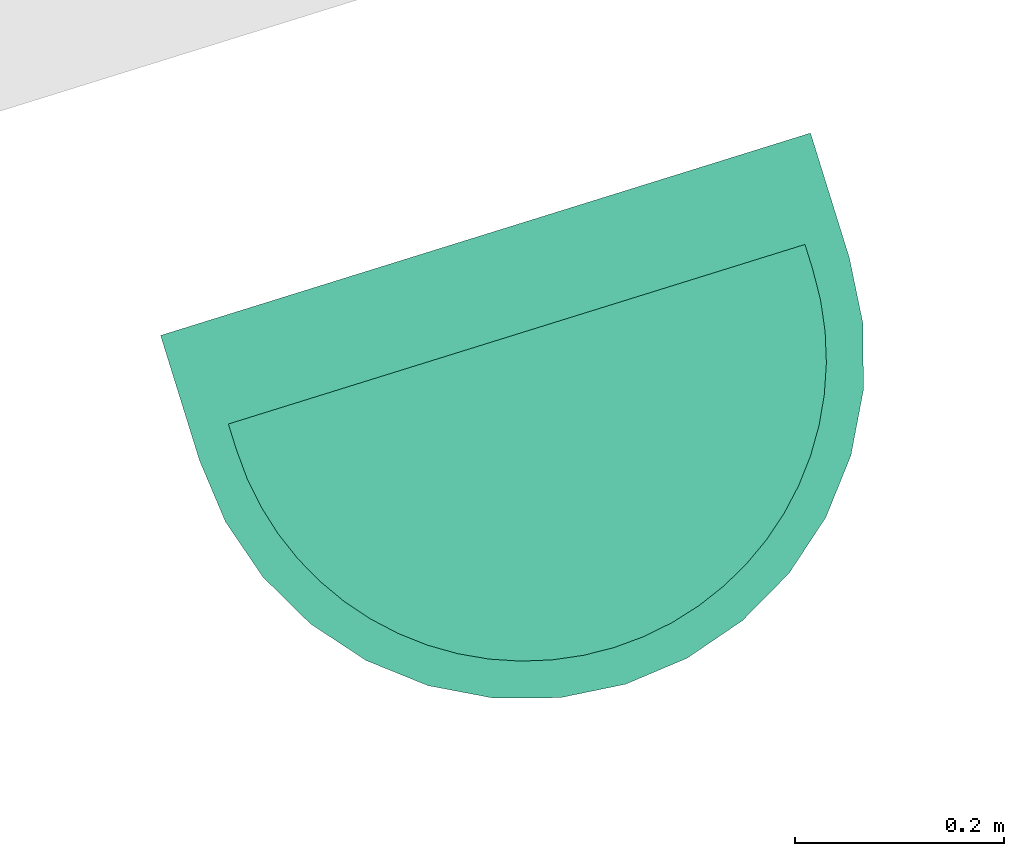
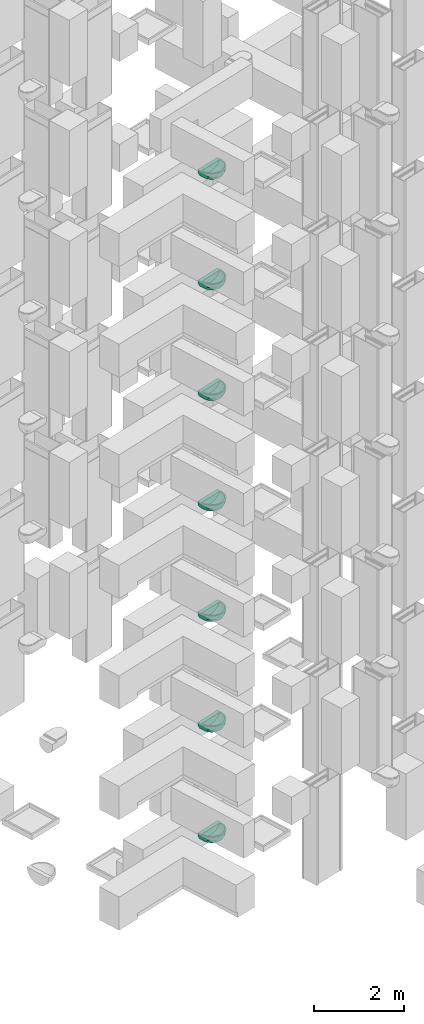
# Not in any storey, part 7 of 20: 7 sanitary terminals.
"""IFC4 model written with IfcOpenShell, lengths in metres."""

from ifc_helpers import new_model, entity, si_unit, converted_unit, direction, frame, origin, place, context, subcontext, project, polygons, source, transform, mapped, material, type_object, type_shapes, element, save


model = new_model("IFC4")

# Units and contexts
model_context = context("Model", 3, precision=1e-05, world=origin(), true_north=direction((6.12323399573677e-17, 1.0)))
body_context = subcontext(model_context, "Body", "Model", "MODEL_VIEW")
ifc_project = project(units=[si_unit("LENGTHUNIT", "METRE"), si_unit("AREAUNIT", "SQUARE_METRE"), si_unit("VOLUMEUNIT", "CUBIC_METRE"), converted_unit("PLANEANGLEUNIT", "DEGREE", entity("IfcPlaneAngleMeasure", 0.0174532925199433), si_unit("PLANEANGLEUNIT", "RADIAN"), dimensions=[0, 0, 0, 0, 0, 0, 0])], contexts=[model_context])

# Sanitary terminals
ifc_material = material(Name="<Unnamed>")
sanitary_terminal_type = type_object("IfcSanitaryTerminalType", Name="NLRS_74_PF_WB_wastafel_gen:wastafel", PredefinedType="SINK", material=ifc_material)
shared_shape = source(origin(), body_context, "Body", "Tessellation", [
    polygons([(0.346918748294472, 0.250000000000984, -6.7), (0.346918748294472, 0.124999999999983, -6.7), (0.342460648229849, 0.124999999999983, -6.75364597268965), (0.32922351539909, 0.124999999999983, -6.80577703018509), (0.307569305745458, 0.124999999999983, -6.85501212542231), (0.278092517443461, 0.124999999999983, -6.9), (0.278092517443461, 0.250000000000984, -6.9), (0.307575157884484, 0.250000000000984, -6.85500134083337), (0.329230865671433, 0.250000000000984, -6.8057556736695), (0.34246627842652, 0.250000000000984, -6.75361232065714), (-0.303081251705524, 0.250000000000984, -6.7), (-0.303081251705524, 0.124999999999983, -6.7), (0.021918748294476, 0.124999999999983, -6.7), (0.021918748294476, 0.225000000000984, -6.7), (-0.266395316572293, 0.225000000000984, -6.7), (-0.266395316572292, 0.250000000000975, -6.7), (-0.264816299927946, 0.280133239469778, -6.7), (-0.260095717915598, 0.309940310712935, -6.7), (-0.252285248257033, 0.339090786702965, -6.7), (-0.241470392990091, 0.367265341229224, -6.7), (-0.227769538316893, 0.394155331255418, -6.7), (-0.21133265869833, 0.419466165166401, -6.7), (-0.192339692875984, 0.442920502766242, -6.7), (-0.170998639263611, 0.464261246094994, -6.7), (-0.147543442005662, 0.483254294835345, -6.7), (-0.122231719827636, 0.499691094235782, -6.7), (-0.0953421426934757, 0.513391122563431, -6.7), (-0.0671705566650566, 0.524204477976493, -6.7), (-0.0380241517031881, 0.532013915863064, -6.7), (-0.00821701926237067, 0.536734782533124, -6.7), (0.021918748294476, 0.538314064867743, -6.7), (0.021918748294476, 0.575000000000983, -6.7), (-0.0414856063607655, 0.568755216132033, -6.7), (-0.102453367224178, 0.550260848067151, -6.7), (-0.158641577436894, 0.52022762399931, -6.7), (-0.207890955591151, 0.479809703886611, -6.7), (-0.248308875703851, 0.430560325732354, -6.7), (-0.278342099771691, 0.374372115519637, -6.7), (-0.296836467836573, 0.313404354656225, -6.7), (0.340673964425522, 0.313404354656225, -6.7), (0.32217959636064, 0.374372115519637, -6.7), (0.292146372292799, 0.430560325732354, -6.7), (0.2517284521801, 0.479809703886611, -6.7), (0.202479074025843, 0.52022762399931, -6.7), (0.146290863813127, 0.550260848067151, -6.7), (0.0853231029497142, 0.568755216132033, -6.7), (0.0520545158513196, 0.536734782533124, -6.7), (0.0818616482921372, 0.532013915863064, -6.7), (0.111008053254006, 0.524204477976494, -6.7), (0.139179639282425, 0.513391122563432, -6.7), (0.166069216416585, 0.499691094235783, -6.7), (0.191380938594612, 0.483254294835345, -6.7), (0.214836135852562, 0.464261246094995, -6.7), (0.236177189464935, 0.442920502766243, -6.7), (0.255170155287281, 0.419466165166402, -6.7), (0.271607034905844, 0.394155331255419, -6.7), (0.285307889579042, 0.367265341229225, -6.7), (0.296122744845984, 0.339090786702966, -6.7), (0.303933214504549, 0.309940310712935, -6.7), (0.308653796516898, 0.280133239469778, -6.7), (0.310232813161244, 0.250000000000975, -6.7), (0.310232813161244, 0.225000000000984, -6.7), (-0.298628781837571, 0.250000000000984, -6.75361232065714), (-0.285393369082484, 0.250000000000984, -6.8057556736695), (-0.263737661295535, 0.250000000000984, -6.85500134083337), (-0.234255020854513, 0.250000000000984, -6.9), (-0.234255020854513, 0.124999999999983, -6.9), (-0.26372299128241, 0.124999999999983, -6.85502837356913), (-0.285382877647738, 0.124999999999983, -6.80578615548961), (-0.298623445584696, 0.124999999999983, -6.75364421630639), (0.27659082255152, 0.277697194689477, -6.9), (0.272103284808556, 0.305069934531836, -6.9), (0.264682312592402, 0.331797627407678, -6.9), (0.254414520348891, 0.357567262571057, -6.9), (0.24141970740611, 0.38207698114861, -6.9), (0.225849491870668, 0.405039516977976, -6.9), (0.207885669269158, 0.426185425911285, -6.9), (0.18773840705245, 0.445266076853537, -6.9), (0.165644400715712, 0.46205644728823, -6.9), (0.141864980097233, 0.476357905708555, -6.9), (0.11668363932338, 0.488001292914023, -6.9), (0.0904016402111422, 0.496850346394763, -6.9), (0.0633306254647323, 0.502804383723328, -6.9), (0.0357845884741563, 0.505798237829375, -6.9), (0.00807674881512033, 0.50579952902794, -6.9), (-0.0194777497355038, 0.502806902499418, -6.9), (-0.0465597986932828, 0.496851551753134, -6.9), (-0.0728496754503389, 0.487999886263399, -6.9), (-0.0980340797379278, 0.476354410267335, -6.9), (-0.121813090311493, 0.462052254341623, -6.9), (-0.1439051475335, 0.445262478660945, -6.9), (-0.164050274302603, 0.426183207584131, -6.9), (-0.182012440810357, 0.40503893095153, -6.9), (-0.197581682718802, 0.382077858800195, -6.9), (-0.210576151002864, 0.357569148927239, -6.9), (-0.220844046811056, 0.331799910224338, -6.9), (-0.228265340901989, 0.305071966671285, -6.9), (-0.232753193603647, 0.277698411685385, -6.9), (-0.257045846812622, 0.372316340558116, -6.81332461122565), (0.300884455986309, 0.372313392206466, -6.81332505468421), (-0.0097834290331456, 0.571877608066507, -6.7), (-0.205655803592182, 0.453737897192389, -6.81102113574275), (0.249493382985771, 0.453737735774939, -6.81102126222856), (0.0536209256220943, 0.571877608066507, -6.7), (0.021933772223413, 0.556913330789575, -6.80690747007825), (-0.0719694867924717, 0.559508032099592, -6.7), (0.11580698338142, 0.559508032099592, -6.7), (-0.0425022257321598, 0.546258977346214, -6.81707073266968), (-0.165040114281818, 0.491191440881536, -6.81179477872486), (0.20887408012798, 0.49119811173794, -6.81178629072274), (0.0863501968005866, 0.546256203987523, -6.8170719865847), (-0.23446246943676, 0.3802654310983, -6.85140868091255), (0.278301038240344, 0.380263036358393, -6.85140892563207), (-0.120243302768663, 0.518687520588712, -6.81498681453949), (0.164074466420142, 0.518691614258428, -6.81498507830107), (-0.233336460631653, 0.433005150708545, -6.78353976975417), (0.277175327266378, 0.433003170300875, -6.78353992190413), (-0.290060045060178, 0.315925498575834, -6.76283359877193), (0.333897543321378, 0.315925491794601, -6.76283359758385), (-0.275008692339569, 0.312028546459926, -6.81666856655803), (-0.254394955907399, 0.314447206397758, -6.85850014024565), (-0.272362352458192, 0.371908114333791, -6.76451391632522), (0.31884634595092, 0.312026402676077, -6.81666930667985), (0.298232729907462, 0.314444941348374, -6.85850057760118), (0.316201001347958, 0.371905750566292, -6.76451312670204), (-0.0755829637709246, 0.549402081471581, -6.78047862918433), (-0.0690330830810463, 0.524635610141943, -6.84808121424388), (0.119420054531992, 0.549406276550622, -6.7804635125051), (0.112885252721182, 0.524636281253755, -6.84807095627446), (-0.228099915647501, 0.455185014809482, -6.7), (0.27193741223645, 0.455185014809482, -6.7), (-0.183266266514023, 0.50001866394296, -6.7), (0.227103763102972, 0.50001866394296, -6.7), (-0.130547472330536, 0.53524423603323, -6.7), (0.174384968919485, 0.53524423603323, -6.7), (-0.234514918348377, 0.250000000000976, -6.74966665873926), (-0.194178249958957, 0.250000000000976, -6.79274902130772), (-0.146715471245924, 0.250000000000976, -6.82782638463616), (-0.0936917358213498, 0.250000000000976, -6.85374202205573), (-0.0368555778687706, 0.250000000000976, -6.86964132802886), (0.0219187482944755, 0.250000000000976, -6.875), (0.0806930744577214, 0.250000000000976, -6.86964132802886), (0.137529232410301, 0.250000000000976, -6.85374202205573), (0.190552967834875, 0.250000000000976, -6.82782638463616), (0.238015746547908, 0.250000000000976, -6.79274902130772), (0.278352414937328, 0.250000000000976, -6.74966665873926), (-0.119627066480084, 0.397173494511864, -6.80284332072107), (0.16346455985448, 0.397173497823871, -6.8028433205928), (-0.200517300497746, 0.337511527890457, -6.77020203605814), (0.244354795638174, 0.337511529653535, -6.77020203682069), (-0.162633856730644, 0.422041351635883, -6.75485875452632), (0.206471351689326, 0.422041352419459, -6.75485875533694), (0.00220012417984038, 0.442185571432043, -6.81134437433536), (-0.0912046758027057, 0.468814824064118, -6.76200981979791), (0.135042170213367, 0.468814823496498, -6.76200982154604), (0.0498196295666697, 0.355825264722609, -6.85601887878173), (-0.0620730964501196, 0.341760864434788, -6.85025041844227), (0.160889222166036, 0.323929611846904, -6.83433540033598), (0.0405814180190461, 0.492340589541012, -6.76574926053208), (0.0863370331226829, 0.429389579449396, -6.81323879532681), (-0.00909478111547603, 0.495066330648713, -6.76120050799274), (-0.0478694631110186, 0.456606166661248, -6.79097405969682), (-0.0422183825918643, 0.402597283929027, -6.82968821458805), (-0.00740806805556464, 0.361981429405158, -6.8536858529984), (-0.00719351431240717, 0.303117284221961, -6.869305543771), (-0.0504034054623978, 0.497275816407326, -6.7481140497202), (0.115439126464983, 0.373042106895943, -6.83590134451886), (0.101584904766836, 0.312319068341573, -6.85886022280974), (-0.144773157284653, 0.326326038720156, -6.81835264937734), (0.086060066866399, 0.493745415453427, -6.75518056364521), (-0.234512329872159, 0.225000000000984, -6.74966998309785), (-0.19417475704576, 0.225000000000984, -6.79275213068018), (-0.146711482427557, 0.225000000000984, -6.8278288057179), (-0.0936885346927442, 0.225000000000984, -6.85374324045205), (-0.0368543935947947, 0.225000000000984, -6.869641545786), (0.021917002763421, 0.225000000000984, -6.87499999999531), (0.080687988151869, 0.225000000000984, -6.86964226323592), (0.137520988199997, 0.225000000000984, -6.85374515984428), (0.19054233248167, 0.225000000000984, -6.82783283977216), (0.238003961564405, 0.225000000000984, -6.79275951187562), (0.278341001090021, 0.225000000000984, -6.74968131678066)], [[[7, 8, 5]], [[5, 6, 7]], [[4, 5, 8]], [[8, 9, 4]], [[10, 1, 2]], [[10, 3, 9]], [[3, 10, 2]], [[9, 3, 4]], [[32, 101, 33, 106, 34, 134, 35, 132, 36, 130, 37, 38, 39, 11, 12, 13, 2, 1, 40, 41, 42, 131, 43, 133, 44, 135, 45, 107, 46, 104], [31, 47, 48, 49, 50, 51, 52, 53, 54, 55, 56, 57, 58, 59, 60, 61, 62, 14, 15, 16, 17, 18, 19, 20, 21, 22, 23, 24, 25, 26, 27, 28, 29, 30]], [[11, 63, 12]], [[63, 70, 12]], [[70, 63, 64]], [[70, 64, 69]], [[65, 66, 68]], [[65, 68, 69]], [[68, 66, 67]], [[65, 69, 64]], [[13, 12, 70, 69, 68, 67, 6, 5, 4, 3, 2]], [[109, 102, 35]], [[41, 125, 42]], [[100, 123, 124]], [[109, 91, 92]], [[112, 116, 102]], [[92, 93, 109]], [[75, 113, 74]], [[102, 109, 93]], [[91, 109, 114]], [[119, 123, 125]], [[87, 88, 127]], [[108, 101, 105]], [[119, 125, 41]], [[85, 86, 108]], [[34, 114, 109]], [[108, 126, 33]], [[113, 117, 100]], [[126, 127, 114]], [[90, 114, 89]], [[106, 114, 34]], [[126, 106, 33]], [[124, 72, 73]], [[94, 112, 102]], [[39, 38, 118]], [[114, 106, 126]], [[63, 118, 64]], [[122, 99, 120]], [[39, 63, 11]], [[118, 63, 39]], [[117, 43, 131]], [[103, 117, 113]], [[122, 38, 37]], [[87, 127, 108]], [[85, 108, 105]], [[97, 121, 96]], [[95, 96, 112]], [[115, 78, 79]], [[116, 36, 132]], [[66, 65, 121]], [[105, 84, 85]], [[64, 120, 65]], [[121, 65, 120]], [[127, 89, 114]], [[104, 111, 105]], [[121, 112, 96]], [[93, 94, 102]], [[99, 130, 116]], [[121, 98, 66]], [[127, 126, 108]], [[111, 104, 46]], [[8, 7, 124]], [[94, 95, 112]], [[105, 101, 32]], [[104, 105, 32]], [[105, 111, 84]], [[101, 108, 33]], [[111, 82, 83]], [[80, 115, 79]], [[115, 107, 45]], [[110, 44, 103]], [[120, 118, 122]], [[112, 121, 99]], [[76, 110, 103]], [[114, 90, 91]], [[129, 111, 128]], [[117, 131, 100]], [[110, 78, 115]], [[103, 75, 76]], [[84, 111, 83]], [[120, 99, 121]], [[128, 111, 46]], [[38, 122, 118]], [[116, 112, 99]], [[34, 109, 35, 134]], [[77, 78, 110]], [[76, 77, 110]], [[82, 111, 129]], [[103, 133, 117]], [[75, 103, 113]], [[86, 87, 108]], [[8, 124, 123]], [[73, 113, 124]], [[128, 46, 107]], [[113, 100, 124]], [[73, 74, 113]], [[123, 9, 8]], [[7, 71, 124]], [[118, 120, 64]], [[119, 40, 10]], [[80, 81, 129]], [[103, 44, 133]], [[122, 130, 99]], [[1, 10, 40]], [[119, 10, 9]], [[116, 132, 102]], [[123, 100, 125]], [[71, 72, 124]], [[40, 119, 41]], [[110, 45, 135, 44]], [[121, 97, 98]], [[130, 36, 116]], [[125, 100, 131]], [[123, 119, 9]], [[127, 88, 89]], [[107, 115, 128]], [[115, 80, 129]], [[115, 129, 128]], [[82, 129, 81]], [[130, 122, 37]], [[131, 42, 125]], [[35, 102, 132]], [[43, 117, 133]], [[45, 110, 115]], [[26, 25, 151]], [[156, 153, 164]], [[24, 23, 151]], [[165, 168, 156]], [[163, 164, 153]], [[149, 151, 21]], [[154, 27, 26]], [[157, 163, 147]], [[31, 161, 159]], [[159, 160, 170]], [[157, 169, 139]], [[163, 153, 162]], [[161, 166, 162]], [[30, 161, 31]], [[154, 26, 151]], [[161, 162, 153]], [[154, 162, 166]], [[164, 163, 157]], [[18, 149, 19]], [[154, 166, 28]], [[18, 17, 136]], [[167, 160, 156]], [[158, 167, 168]], [[136, 17, 16]], [[20, 19, 149]], [[30, 29, 166]], [[169, 149, 137]], [[139, 169, 138]], [[156, 168, 167]], [[137, 149, 136]], [[136, 149, 18]], [[151, 23, 22]], [[20, 149, 21]], [[145, 150, 144]], [[27, 154, 28]], [[22, 21, 151]], [[164, 165, 156]], [[24, 151, 25]], [[162, 154, 147]], [[140, 165, 157]], [[161, 153, 159]], [[148, 155, 160]], [[152, 51, 155]], [[148, 158, 150]], [[168, 142, 143]], [[155, 50, 49]], [[48, 47, 170]], [[52, 51, 152]], [[54, 53, 152]], [[163, 162, 147]], [[152, 150, 56]], [[160, 159, 153]], [[170, 155, 49]], [[152, 56, 55]], [[160, 167, 148]], [[53, 52, 152]], [[140, 141, 165]], [[57, 56, 150]], [[51, 50, 155]], [[140, 157, 139]], [[144, 150, 158]], [[158, 143, 144]], [[148, 150, 152]], [[147, 149, 169]], [[165, 164, 157]], [[147, 154, 151]], [[145, 146, 150]], [[166, 161, 30]], [[28, 166, 29]], [[146, 59, 150]], [[61, 60, 146]], [[59, 146, 60]], [[47, 31, 159]], [[55, 54, 152]], [[168, 165, 141]], [[150, 59, 58]], [[57, 150, 58]], [[147, 151, 149]], [[158, 148, 167]], [[49, 48, 170]], [[156, 160, 153]], [[148, 152, 155]], [[158, 168, 143]], [[141, 142, 168]], [[147, 169, 157]], [[138, 169, 137]], [[155, 170, 160]], [[159, 170, 47]], [[16, 15, 136]], [[136, 171, 137]], [[139, 138, 173]], [[172, 138, 137]], [[140, 139, 174]], [[136, 15, 171]], [[137, 171, 172]], [[140, 175, 176]], [[139, 173, 174]], [[140, 174, 175]], [[173, 138, 172]], [[176, 141, 140]], [[142, 141, 177]], [[142, 178, 143]], [[145, 144, 180]], [[179, 144, 143]], [[146, 145, 181]], [[178, 142, 177]], [[179, 143, 178]], [[180, 181, 145]], [[144, 179, 180]], [[62, 146, 181]], [[146, 62, 61]], [[176, 177, 141]], [[181, 180, 179, 178, 177, 176, 175, 174, 173, 172, 171, 15, 14, 62]], [[6, 67, 66, 98, 97, 96, 95, 94, 93, 92, 91, 90, 89, 88, 87, 86, 85, 84, 83, 82, 81, 80, 79, 78, 77, 76, 75, 74, 73, 72, 71, 7]]], closed=True),
])
type_shapes(sanitary_terminal_type, [shared_shape])
placement_1 = place(None, frame((13.1347999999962, 11.9886000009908, 0.0), z_axis=(0.0, 0.0, 1.0), x_axis=(0.954770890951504, 0.297342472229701, 0.0)))
placement_2 = place(placement_1, origin())
placement_3 = place(placement_2, frame((0.0, 0.0, 6.9)))
placement_4 = place(placement_3, origin())
sanitary_terminal_1_placement = place(placement_4, frame((10.6469187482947, 11.8999999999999, 7.4), z_axis=(0.0, 0.0, 1.0), x_axis=(-1.0, 0.0, 0.0)))
element("IfcSanitaryTerminal", 1, at=sanitary_terminal_1_placement, type_object=sanitary_terminal_type, material=ifc_material, Name="NLRS_74_PF_WB_wastafel_gen:wastafel", ObjectType="NLRS_74_PF_WB_wastafel_gen:wastafel", PredefinedType="SINK", context=body_context, shape_type="MappedRepresentation", body=[
    mapped(shared_shape, transform((0.0, 0.0, 0.0), scale=1.0)),
])
placement_5 = place(placement_2, frame((0.0, 0.0, 9.9)))
placement_6 = place(placement_5, origin())
sanitary_terminal_2_placement = place(placement_6, frame((10.6469187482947, 11.8999999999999, 7.4), z_axis=(0.0, 0.0, 1.0), x_axis=(-1.0, 0.0, 0.0)))
element("IfcSanitaryTerminal", 2, at=sanitary_terminal_2_placement, type_object=sanitary_terminal_type, material=ifc_material, Name="NLRS_74_PF_WB_wastafel_gen:wastafel", ObjectType="NLRS_74_PF_WB_wastafel_gen:wastafel", PredefinedType="SINK", context=body_context, shape_type="MappedRepresentation", body=[
    mapped(shared_shape, transform((0.0, 0.0, 0.0), scale=1.0)),
])
placement_7 = place(placement_2, frame((0.0, 0.0, 12.9)))
placement_8 = place(placement_7, origin())
sanitary_terminal_3_placement = place(placement_8, frame((10.6469187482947, 11.8999999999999, 7.4), z_axis=(0.0, 0.0, 1.0), x_axis=(-1.0, 0.0, 0.0)))
element("IfcSanitaryTerminal", 3, at=sanitary_terminal_3_placement, type_object=sanitary_terminal_type, material=ifc_material, Name="NLRS_74_PF_WB_wastafel_gen:wastafel", ObjectType="NLRS_74_PF_WB_wastafel_gen:wastafel", PredefinedType="SINK", context=body_context, shape_type="MappedRepresentation", body=[
    mapped(shared_shape, transform((0.0, 0.0, 0.0), scale=1.0)),
])
placement_9 = place(placement_2, frame((0.0, 0.0, 15.9)))
placement_10 = place(placement_9, origin())
sanitary_terminal_4_placement = place(placement_10, frame((10.6469187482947, 11.8999999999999, 7.4), z_axis=(0.0, 0.0, 1.0), x_axis=(-1.0, 0.0, 0.0)))
element("IfcSanitaryTerminal", 4, at=sanitary_terminal_4_placement, type_object=sanitary_terminal_type, material=ifc_material, Name="NLRS_74_PF_WB_wastafel_gen:wastafel", ObjectType="NLRS_74_PF_WB_wastafel_gen:wastafel", PredefinedType="SINK", context=body_context, shape_type="MappedRepresentation", body=[
    mapped(shared_shape, transform((0.0, 0.0, 0.0), scale=1.0)),
])
placement_11 = place(placement_2, frame((0.0, 0.0, 18.9)))
placement_12 = place(placement_11, origin())
sanitary_terminal_5_placement = place(placement_12, frame((10.6469187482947, 11.8999999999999, 7.4), z_axis=(0.0, 0.0, 1.0), x_axis=(-1.0, 0.0, 0.0)))
element("IfcSanitaryTerminal", 5, at=sanitary_terminal_5_placement, type_object=sanitary_terminal_type, material=ifc_material, Name="NLRS_74_PF_WB_wastafel_gen:wastafel", ObjectType="NLRS_74_PF_WB_wastafel_gen:wastafel", PredefinedType="SINK", context=body_context, shape_type="MappedRepresentation", body=[
    mapped(shared_shape, transform((0.0, 0.0, 0.0), scale=1.0)),
])
placement_13 = place(placement_2, frame((0.0, 0.0, 21.9)))
placement_14 = place(placement_13, origin())
sanitary_terminal_6_placement = place(placement_14, frame((10.6469187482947, 11.8999999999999, 7.4), z_axis=(0.0, 0.0, 1.0), x_axis=(-1.0, 0.0, 0.0)))
element("IfcSanitaryTerminal", 6, at=sanitary_terminal_6_placement, type_object=sanitary_terminal_type, material=ifc_material, Name="NLRS_74_PF_WB_wastafel_gen:wastafel", ObjectType="NLRS_74_PF_WB_wastafel_gen:wastafel", PredefinedType="SINK", context=body_context, shape_type="MappedRepresentation", body=[
    mapped(shared_shape, transform((0.0, 0.0, 0.0), scale=1.0)),
])
placement_15 = place(placement_2, frame((0.0, 0.0, 24.9)))
placement_16 = place(placement_15, origin())
sanitary_terminal_7_placement = place(placement_16, frame((10.6469187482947, 11.8999999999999, 7.4), z_axis=(0.0, 0.0, 1.0), x_axis=(-1.0, 0.0, 0.0)))
element("IfcSanitaryTerminal", 7, at=sanitary_terminal_7_placement, type_object=sanitary_terminal_type, material=ifc_material, Name="NLRS_74_PF_WB_wastafel_gen:wastafel", ObjectType="NLRS_74_PF_WB_wastafel_gen:wastafel", PredefinedType="SINK", context=body_context, shape_type="MappedRepresentation", body=[
    mapped(shared_shape, transform((0.0, 0.0, 0.0), scale=1.0)),
])

save(model, "model.ifc")
